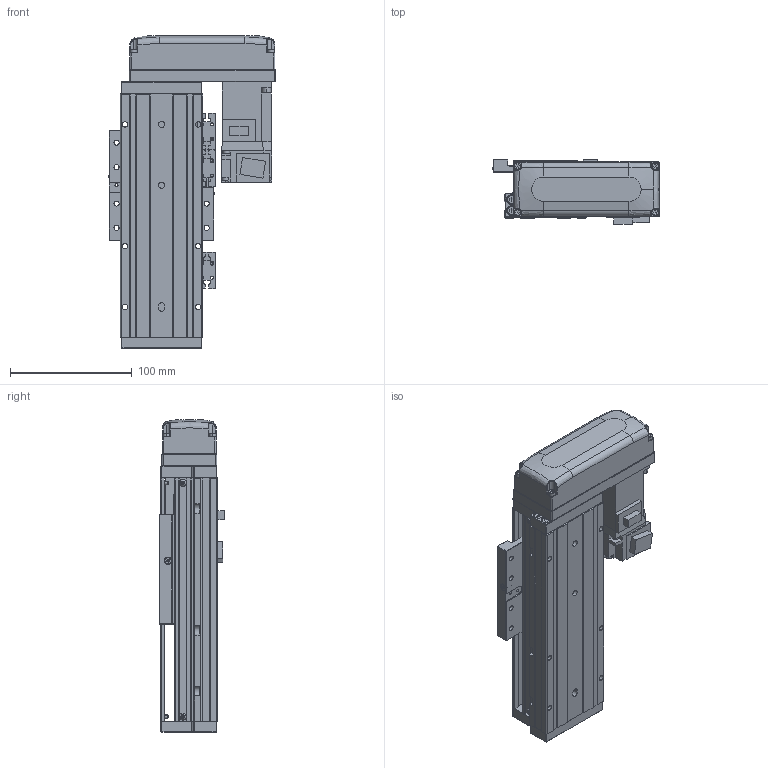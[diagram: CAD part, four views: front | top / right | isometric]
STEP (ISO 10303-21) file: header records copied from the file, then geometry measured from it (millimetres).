
FILE_DESCRIPTION (( 'STEP AP203' ), '1' );
FILE_NAME ('KTHAL60-50-BL-M10-C4L.step', '2022-03-19T08:38:19', ( '微软用户' ), ( '微软中国' ), 'SwSTEP 2.0', 'SolidWorks 2020', '' );
FILE_SCHEMA (( 'CONFIG_CONTROL_DESIGN' ));
Length unit declared in the file: millimetre
Products named in the file (18): GB¨uT 70.2-M3¡Á5_M3¡Á6; GBT 70.1-M3℅6; GBT 70.3-M3℅6; CTHA60-016; EE_SX911P_R; HG-KR13（三菱）; KTHA60-001_200; CTHA60-017; CTHA60-015-2_CTHA60-015-2; KTHLA60-002; CTHA60-021; CTHA60-033; KTHA60-004; GBT 70.1-M4×16; GBT 70.1-M3×15; KTHA60-005; GBT77-2000M3-3; KTHAL60-50-BL-M10-C4L
Assembly tree (51 placements, depth 2):
  KTHAL60-50-BL-M10-C4L
    KTHA60-001_200
    KTHLA60-002
    KTHA60-004
    KTHA60-005
    GB¨uT 70.2-M3¡Á5_M3¡Á6  x5
    GBT 70.3-M3℅6  x4
    EE_SX911P_R  x3
    CTHA60-017  x3
    CTHA60-021  x2
    GBT 70.1-M4×16  x10
    GBT77-2000M3-3  x6
    GBT 70.1-M3℅6  x6
    CTHA60-016
    HG-KR13（三菱）
    CTHA60-015-2_CTHA60-015-2
    CTHA60-033
    GBT 70.1-M3×15  x4
Bounding box: 137 x 53.3 x 257 mm (x, y, z)
Volume: 797188.3 mm3; surface area: 195617.8 mm2
Topology: 54 solids, 54 shells, 2215 faces, 5219 edges, 3197 vertices
Faces by surface type: plane 1264, cylinder 535, cone 278, torus 98, bspline 26, sphere 14
Entity records: 37409 total; most frequent: CARTESIAN_POINT 7112, DIRECTION 5803, ORIENTED_EDGE 5582, EDGE_CURVE 2791, AXIS2_PLACEMENT_3D 1955, VECTOR 1893, LINE 1893, VERTEX_POINT 1746
